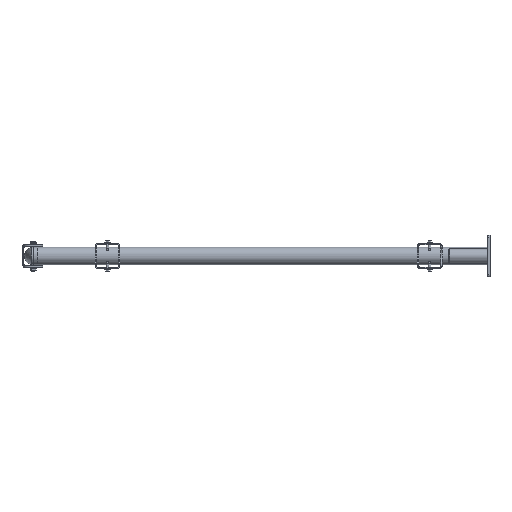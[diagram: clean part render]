
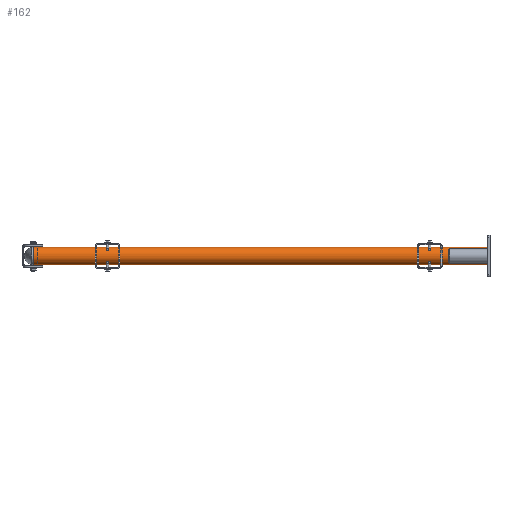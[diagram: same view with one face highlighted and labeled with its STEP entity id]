
A CAD part, left-side view. The second image highlights one B-rep face of the part: STEP entity #162.
In plain terms, the highlighted cylindrical face has radius 21.2 mm (diameter 42.4 mm), a full revolution.
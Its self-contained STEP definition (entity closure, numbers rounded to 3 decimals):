
#135=CARTESIAN_POINT('',(0.0,0.0,0.0));
#136=DIRECTION('',(0.0,1.0,0.0));
#137=DIRECTION('',(1.0,0.0,0.0));
#138=AXIS2_PLACEMENT_3D('',#135,#136,#137);
#139=CYLINDRICAL_SURFACE('',#138,21.2);
#140=CARTESIAN_POINT('',(-21.2,1100.0,0.));
#141=VERTEX_POINT('',#140);
#142=CARTESIAN_POINT('',(0.0,1100.0,0.0));
#143=DIRECTION('',(0.0,-1.0,0.0));
#144=DIRECTION('',(1.0,0.0,0.0));
#145=AXIS2_PLACEMENT_3D('',#142,#143,#144);
#146=CIRCLE('',#145,21.2);
#147=EDGE_CURVE('',#141,#141,#146,.T.);
#148=ORIENTED_EDGE('',*,*,#147,.T.);
#149=EDGE_LOOP('',(#148));
#150=FACE_OUTER_BOUND('',#149,.T.);
#151=CARTESIAN_POINT('',(-21.2,0.0,0.));
#152=VERTEX_POINT('',#151);
#153=CARTESIAN_POINT('',(0.0,0.0,0.0));
#154=DIRECTION('',(0.0,-1.0,0.0));
#155=DIRECTION('',(1.0,0.0,0.0));
#156=AXIS2_PLACEMENT_3D('',#153,#154,#155);
#157=CIRCLE('',#156,21.2);
#158=EDGE_CURVE('',#152,#152,#157,.T.);
#159=ORIENTED_EDGE('',*,*,#158,.F.);
#160=EDGE_LOOP('',(#159));
#161=FACE_BOUND('',#160,.T.);
#162=ADVANCED_FACE('',(#150,#161),#139,.T.);
